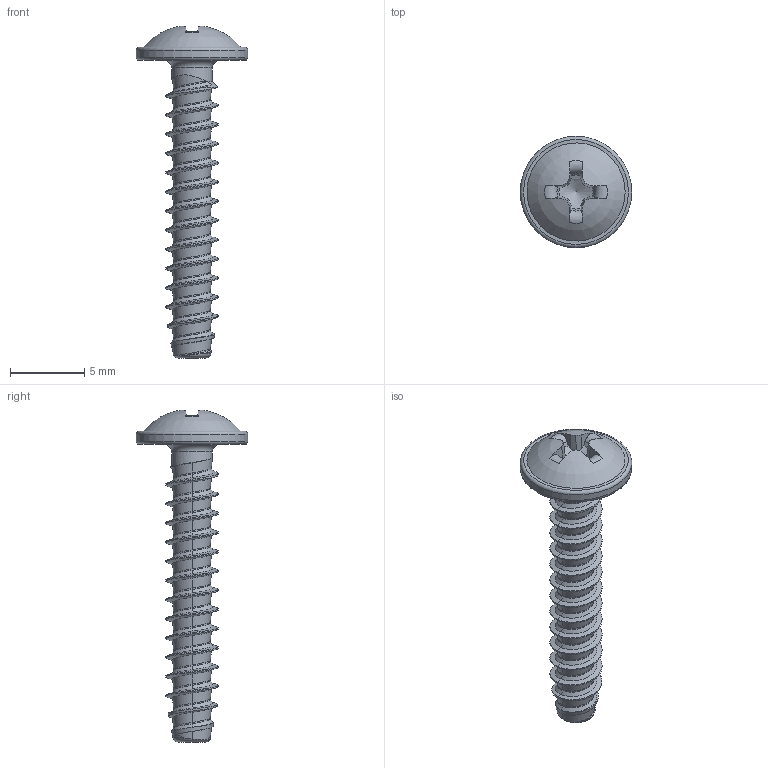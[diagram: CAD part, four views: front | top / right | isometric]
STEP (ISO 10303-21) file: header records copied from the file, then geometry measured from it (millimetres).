
FILE_DESCRIPTION(/* description */ (''),/* implementation_level */ '2;1');
FILE_NAME(/* name */ 'KN6031-STSplus-35x20-H2.step',/* time_stamp */ '2017-09-29T13:07:52+02:00',/* author */ (''),/* organization */ (''),/* preprocessor_version */ 'ST-DEVELOPER v16',/* originating_system */ 'SIEMENS PLM Software NX 10.0',/* authorisation */ '');
FILE_SCHEMA (('AUTOMOTIVE_DESIGN { 1 0 10303 214 3 1 1 1 }'));
Length unit declared in the file: millimetre
Products named in the file (1): KN6031-STSplus-35x20-H2
Bounding box: 7.5 x 7.5 x 22.32 mm (x, y, z)
Volume: 176.9 mm3; surface area: 368.4 mm2
Topology: 1 solids, 1 shells, 115 faces, 277 edges, 165 vertices
Faces by surface type: bspline 77, plane 19, torus 8, cone 7, cylinder 3, sphere 1
Full cylindrical faces by diameter (mm): 2.73 x1, 7.5 x1
Entity records: 7386 total; most frequent: CARTESIAN_POINT 5259, ORIENTED_EDGE 526, EDGE_CURVE 263, DIRECTION 243, VERTEX_POINT 160, B_SPLINE_CURVE_WITH_KNOTS 138, EDGE_LOOP 124, ADVANCED_FACE 115
